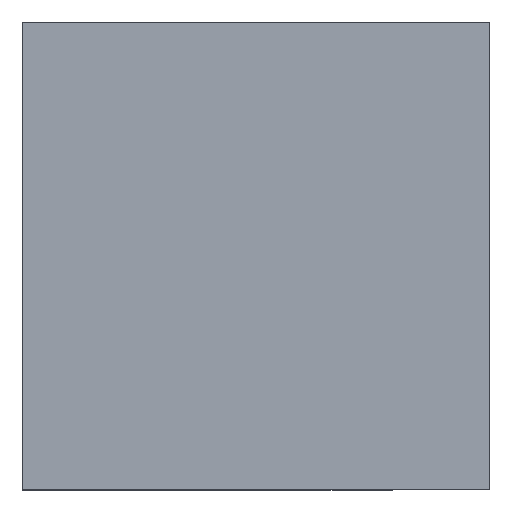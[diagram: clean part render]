
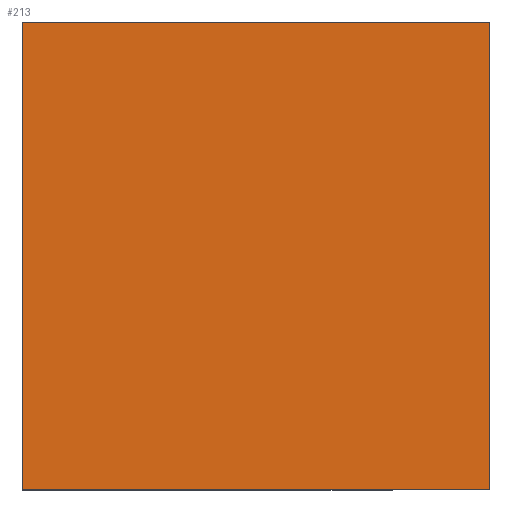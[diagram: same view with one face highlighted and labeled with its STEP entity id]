
A CAD part, top view. The second image highlights one B-rep face of the part: STEP entity #213.
In plain terms, the highlighted planar face has unit normal (0, 0, 1).
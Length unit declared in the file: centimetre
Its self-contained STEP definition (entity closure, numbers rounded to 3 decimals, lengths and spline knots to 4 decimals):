
#83 = CARTESIAN_POINT ( 'NONE',  ( 0., 1000., 1000. ) ) ;
#97 = VERTEX_POINT ( 'NONE', #823 ) ;
#213 = ADVANCED_FACE ( 'NONE', ( #404 ), #238, .T. ) ;
#231 = CARTESIAN_POINT ( 'NONE',  ( 0., 0., 1000. ) ) ;
#238 = PLANE ( 'NONE',  #526 ) ;
#259 = ORIENTED_EDGE ( 'NONE', *, *, #288, .T. ) ;
#271 = LINE ( 'NONE', #340, #365 ) ;
#280 = VECTOR ( 'NONE', #418, 100. ) ;
#288 = EDGE_CURVE ( 'NONE', #380, #97, #322, .T. ) ;
#321 = EDGE_LOOP ( 'NONE', ( #738, #500, #259, #1050 ) ) ;
#322 = LINE ( 'NONE', #842, #781 ) ;
#340 = CARTESIAN_POINT ( 'NONE',  ( 0., 0., 1000. ) ) ;
#365 = VECTOR ( 'NONE', #1034, 100. ) ;
#373 = EDGE_CURVE ( 'NONE', #964, #792, #668, .T. ) ;
#380 = VERTEX_POINT ( 'NONE', #710 ) ;
#404 = FACE_OUTER_BOUND ( 'NONE', #321, .T. ) ;
#409 = CARTESIAN_POINT ( 'NONE',  ( 0., 0., 1000. ) ) ;
#418 = DIRECTION ( 'NONE',  ( -1., 0., 0. ) ) ;
#498 = LINE ( 'NONE', #739, #280 ) ;
#500 = ORIENTED_EDGE ( 'NONE', *, *, #911, .T. ) ;
#526 = AXIS2_PLACEMENT_3D ( 'NONE', #231, #573, #665 ) ;
#573 = DIRECTION ( 'NONE',  ( 0., 0., 1. ) ) ;
#665 = DIRECTION ( 'NONE',  ( 1., 0., 0. ) ) ;
#668 = LINE ( 'NONE', #871, #963 ) ;
#710 = CARTESIAN_POINT ( 'NONE',  ( 1000., 0., 1000. ) ) ;
#738 = ORIENTED_EDGE ( 'NONE', *, *, #373, .T. ) ;
#739 = CARTESIAN_POINT ( 'NONE',  ( 0., 1000., 1000. ) ) ;
#781 = VECTOR ( 'NONE', #1018, 100. ) ;
#792 = VERTEX_POINT ( 'NONE', #409 ) ;
#823 = CARTESIAN_POINT ( 'NONE',  ( 1000., 1000., 1000. ) ) ;
#832 = EDGE_CURVE ( 'NONE', #97, #964, #498, .T. ) ;
#842 = CARTESIAN_POINT ( 'NONE',  ( 1000., 1000., 1000. ) ) ;
#871 = CARTESIAN_POINT ( 'NONE',  ( 0., 1000., 1000. ) ) ;
#911 = EDGE_CURVE ( 'NONE', #792, #380, #271, .T. ) ;
#963 = VECTOR ( 'NONE', #1038, 100. ) ;
#964 = VERTEX_POINT ( 'NONE', #83 ) ;
#1018 = DIRECTION ( 'NONE',  ( 0., 1., 0. ) ) ;
#1034 = DIRECTION ( 'NONE',  ( 1., 0., 0. ) ) ;
#1038 = DIRECTION ( 'NONE',  ( 0., -1., 0. ) ) ;
#1050 = ORIENTED_EDGE ( 'NONE', *, *, #832, .T. ) ;
